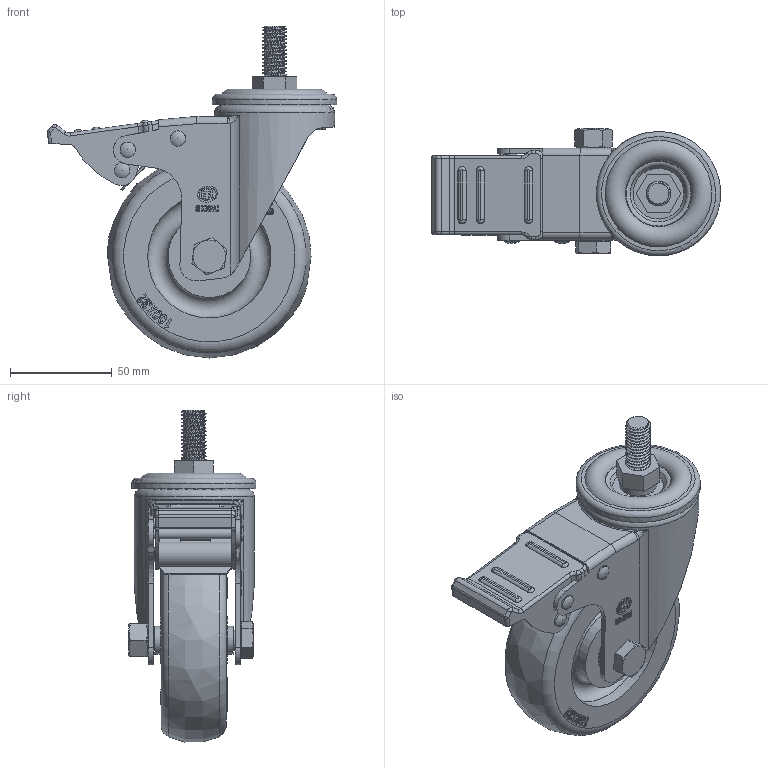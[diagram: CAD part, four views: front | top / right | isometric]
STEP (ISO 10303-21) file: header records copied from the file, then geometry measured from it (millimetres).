
FILE_DESCRIPTION(/* description */ (''),/* implementation_level */ '2;1');
FILE_NAME(/* name */ '20A23_4_F.stp',/* time_stamp */ '2022-09-03T10:40:45+08:00',/* author */ (''),/* organization */ (''),/* preprocessor_version */ 'ST-DEVELOPER v14',/* originating_system */ 'SIEMENS PLM Software NX 8.0',/* authorisation */ '');
FILE_SCHEMA (('AUTOMOTIVE_DESIGN { 1 0 10303 214 3 1 1 1 }'));
Length unit declared in the file: millimetre
Products named in the file (1): 20A23_4_F
Bounding box: 142.03 x 62.75 x 162.93 mm (x, y, z)
Volume: 284161.6 mm3; surface area: 92989.6 mm2
Topology: 1 solids, 2 shells, 1082 faces, 2997 edges, 1977 vertices
Faces by surface type: plane 596, cylinder 285, torus 62, sphere 43, cone 36, bspline 36, extrusion 24
Full cylindrical faces by diameter (mm): 2.841 x1, 3.44 x1, 4 x3, 5 x3, 5.2 x8, 7.5 x2, 10 x2, 10.2 x2, 12 x2, 12.2 x1, 12.496 x1, 13.6 x2, 16 x1, 18 x1, 23 x2, 30.122 x1, 40.5 x2, 45.996 x1, 54 x1, 56 x1, 59 x1, 60.5 x2, 61 x1
Entity records: 42141 total; most frequent: CARTESIAN_POINT 16459, ORIENTED_EDGE 5486, DIRECTION 4916, EDGE_CURVE 2743, VERTEX_POINT 1854, AXIS2_PLACEMENT_3D 1748, VECTOR 1420, LINE 1396
